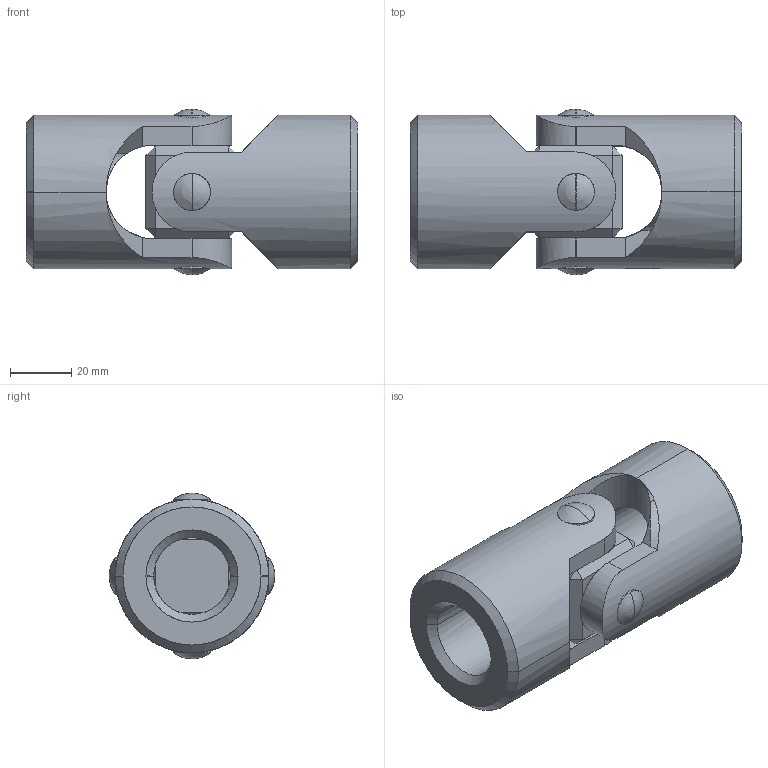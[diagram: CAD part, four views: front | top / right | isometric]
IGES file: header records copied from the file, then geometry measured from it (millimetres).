
Start section: SolidWorks IGES file using analytic representation for surfaces
Global section: file name: E:\WIXROYD\65186_v2\65186_v2_20180418_IGES\65186.W0025.igs; native system: SolidWorks 2017; preprocessor: SolidWorks 2017; author: liam_; date: 180618.201808; units: millimetre
Bounding box: 108 x 54 x 54 mm (x, y, z)
Surface area: 38543.9 mm2 (no closed solid volume)
Topology: 0 solids, 0 shells, 100 faces, 2044 edges, 2040 vertices
Faces by surface type: revolution 52, bspline 48
